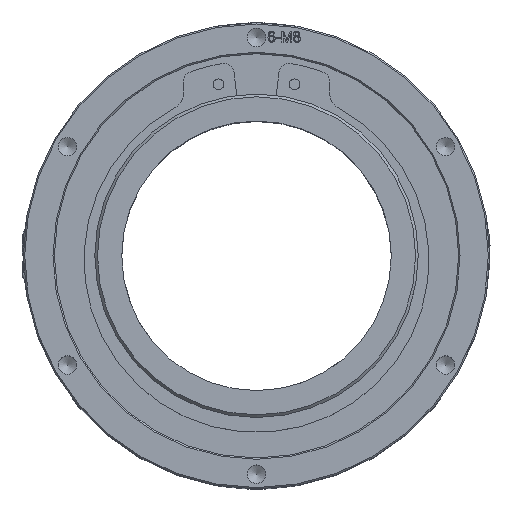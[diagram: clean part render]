
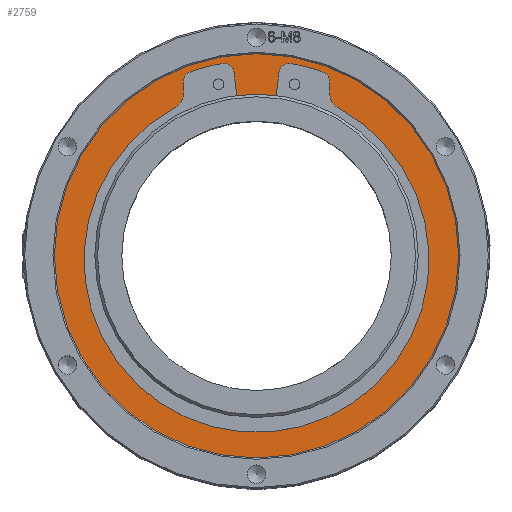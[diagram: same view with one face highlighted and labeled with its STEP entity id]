
A CAD part, top view. The second image highlights one B-rep face of the part: STEP entity #2759.
In plain terms, the highlighted planar face has unit normal (0, 0, 1).
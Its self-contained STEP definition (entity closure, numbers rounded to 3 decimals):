
#281=FACE_BOUND('',#8414,.T.);
#282=FACE_BOUND('',#8415,.T.);
#634=CIRCLE('',#30385,2.);
#635=CIRCLE('',#30386,58.);
#636=CIRCLE('',#30387,2.);
#637=CIRCLE('',#30388,4.);
#638=CIRCLE('',#30389,72.5);
#639=CIRCLE('',#30390,4.);
#640=CIRCLE('',#30391,6.);
#641=CIRCLE('',#30392,64.);
#642=CIRCLE('',#30393,6.);
#643=CIRCLE('',#30394,4.);
#644=CIRCLE('',#30395,72.5);
#645=CIRCLE('',#30396,4.);
#646=CIRCLE('',#30397,75.);
#1174=PLANE('',#30398);
#1713=LINE('',#53576,#5411);
#1714=LINE('',#53585,#5412);
#1715=LINE('',#53593,#5413);
#1716=LINE('',#53601,#5414);
#2759=ADVANCED_FACE('',(#281,#282),#1174,.T.);
#5411=VECTOR('',#32768,1.);
#5412=VECTOR('',#32775,1.);
#5413=VECTOR('',#32782,1.);
#5414=VECTOR('',#32789,1.);
#8414=EDGE_LOOP('',(#13285,#13286,#13287,#13288,#13289,#13290,#13291,#13292,
#13293,#13294,#13295,#13296,#13297,#13298,#13299,#13300));
#8415=EDGE_LOOP('',(#13301));
#13285=ORIENTED_EDGE('',*,*,#23914,.F.);
#13286=ORIENTED_EDGE('',*,*,#23915,.F.);
#13287=ORIENTED_EDGE('',*,*,#23916,.F.);
#13288=ORIENTED_EDGE('',*,*,#23917,.F.);
#13289=ORIENTED_EDGE('',*,*,#23918,.F.);
#13290=ORIENTED_EDGE('',*,*,#23919,.F.);
#13291=ORIENTED_EDGE('',*,*,#23920,.F.);
#13292=ORIENTED_EDGE('',*,*,#23921,.F.);
#13293=ORIENTED_EDGE('',*,*,#23922,.F.);
#13294=ORIENTED_EDGE('',*,*,#23923,.F.);
#13295=ORIENTED_EDGE('',*,*,#23924,.F.);
#13296=ORIENTED_EDGE('',*,*,#23925,.F.);
#13297=ORIENTED_EDGE('',*,*,#23926,.F.);
#13298=ORIENTED_EDGE('',*,*,#23927,.F.);
#13299=ORIENTED_EDGE('',*,*,#23928,.F.);
#13300=ORIENTED_EDGE('',*,*,#23929,.F.);
#13301=ORIENTED_EDGE('',*,*,#23930,.F.);
#20050=VERTEX_POINT('',#53577);
#20051=VERTEX_POINT('',#53578);
#20052=VERTEX_POINT('',#53580);
#20053=VERTEX_POINT('',#53582);
#20054=VERTEX_POINT('',#53584);
#20055=VERTEX_POINT('',#53586);
#20056=VERTEX_POINT('',#53588);
#20057=VERTEX_POINT('',#53590);
#20058=VERTEX_POINT('',#53592);
#20059=VERTEX_POINT('',#53594);
#20060=VERTEX_POINT('',#53596);
#20061=VERTEX_POINT('',#53598);
#20062=VERTEX_POINT('',#53600);
#20063=VERTEX_POINT('',#53602);
#20064=VERTEX_POINT('',#53604);
#20065=VERTEX_POINT('',#53606);
#20066=VERTEX_POINT('',#53609);
#23914=EDGE_CURVE('',#20050,#20051,#1713,.T.);
#23915=EDGE_CURVE('',#20052,#20050,#634,.T.);
#23916=EDGE_CURVE('',#20053,#20052,#635,.T.);
#23917=EDGE_CURVE('',#20054,#20053,#636,.T.);
#23918=EDGE_CURVE('',#20055,#20054,#1714,.T.);
#23919=EDGE_CURVE('',#20056,#20055,#637,.T.);
#23920=EDGE_CURVE('',#20057,#20056,#638,.T.);
#23921=EDGE_CURVE('',#20058,#20057,#639,.T.);
#23922=EDGE_CURVE('',#20059,#20058,#1715,.T.);
#23923=EDGE_CURVE('',#20060,#20059,#640,.T.);
#23924=EDGE_CURVE('',#20061,#20060,#641,.T.);
#23925=EDGE_CURVE('',#20062,#20061,#642,.T.);
#23926=EDGE_CURVE('',#20063,#20062,#1716,.T.);
#23927=EDGE_CURVE('',#20064,#20063,#643,.T.);
#23928=EDGE_CURVE('',#20065,#20064,#644,.T.);
#23929=EDGE_CURVE('',#20051,#20065,#645,.T.);
#23930=EDGE_CURVE('',#20066,#20066,#646,.T.);
#30385=AXIS2_PLACEMENT_3D('',#53579,#32769,#32770);
#30386=AXIS2_PLACEMENT_3D('',#53581,#32771,#32772);
#30387=AXIS2_PLACEMENT_3D('',#53583,#32773,#32774);
#30388=AXIS2_PLACEMENT_3D('',#53587,#32776,#32777);
#30389=AXIS2_PLACEMENT_3D('',#53589,#32778,#32779);
#30390=AXIS2_PLACEMENT_3D('',#53591,#32780,#32781);
#30391=AXIS2_PLACEMENT_3D('',#53595,#32783,#32784);
#30392=AXIS2_PLACEMENT_3D('',#53597,#32785,#32786);
#30393=AXIS2_PLACEMENT_3D('',#53599,#32787,#32788);
#30394=AXIS2_PLACEMENT_3D('',#53603,#32790,#32791);
#30395=AXIS2_PLACEMENT_3D('',#53605,#32792,#32793);
#30396=AXIS2_PLACEMENT_3D('',#53607,#32794,#32795);
#30397=AXIS2_PLACEMENT_3D('',#53608,#32796,#32797);
#30398=AXIS2_PLACEMENT_3D('',#53610,#32798,#32799);
#32768=DIRECTION('',(-0.122,0.993,0.));
#32769=DIRECTION('',(0.,0.,1.));
#32770=DIRECTION('',(1.,0.,0.));
#32771=DIRECTION('',(0.,0.,1.));
#32772=DIRECTION('',(1.,0.,0.));
#32773=DIRECTION('',(0.,0.,1.));
#32774=DIRECTION('',(1.,0.,0.));
#32775=DIRECTION('',(-0.122,-0.993,0.));
#32776=DIRECTION('',(0.,0.,1.));
#32777=DIRECTION('',(1.,0.,0.));
#32778=DIRECTION('',(0.,0.,1.));
#32779=DIRECTION('',(1.,0.,0.));
#32780=DIRECTION('',(0.,0.,1.));
#32781=DIRECTION('',(1.,0.,0.));
#32782=DIRECTION('',(0.035,0.999,0.));
#32783=DIRECTION('',(0.,0.,-1.));
#32784=DIRECTION('',(1.,0.,0.));
#32785=DIRECTION('',(0.,0.,1.));
#32786=DIRECTION('',(1.,0.,0.));
#32787=DIRECTION('',(0.,0.,-1.));
#32788=DIRECTION('',(1.,0.,0.));
#32789=DIRECTION('',(0.035,-0.999,0.));
#32790=DIRECTION('',(0.,0.,1.));
#32791=DIRECTION('',(1.,0.,0.));
#32792=DIRECTION('',(0.,0.,1.));
#32793=DIRECTION('',(1.,0.,0.));
#32794=DIRECTION('',(0.,0.,1.));
#32795=DIRECTION('',(1.,0.,0.));
#32796=DIRECTION('',(0.,0.,-1.));
#32797=DIRECTION('',(1.,0.,0.));
#32798=DIRECTION('',(0.,0.,1.));
#32799=DIRECTION('',(1.,0.,0.));
#53576=CARTESIAN_POINT('',(-7.308,59.52,97.));
#53577=CARTESIAN_POINT('',(-7.308,59.52,97.));
#53578=CARTESIAN_POINT('',(-8.334,67.873,97.));
#53579=CARTESIAN_POINT('',(-9.293,59.276,97.));
#53580=CARTESIAN_POINT('',(-8.983,57.3,97.));
#53581=CARTESIAN_POINT('',(0.,0.,97.));
#53582=CARTESIAN_POINT('',(8.983,57.3,97.));
#53583=CARTESIAN_POINT('',(9.293,59.276,97.));
#53584=CARTESIAN_POINT('',(7.308,59.52,97.));
#53585=CARTESIAN_POINT('',(8.334,67.873,97.));
#53586=CARTESIAN_POINT('',(8.334,67.873,97.));
#53587=CARTESIAN_POINT('',(12.304,67.386,97.));
#53588=CARTESIAN_POINT('',(13.022,71.321,97.));
#53589=CARTESIAN_POINT('',(0.,0.,97.));
#53590=CARTESIAN_POINT('',(24.621,68.191,97.));
#53591=CARTESIAN_POINT('',(23.263,64.429,97.));
#53592=CARTESIAN_POINT('',(27.26,64.289,97.));
#53593=CARTESIAN_POINT('',(27.124,60.378,97.));
#53594=CARTESIAN_POINT('',(27.124,60.378,97.));
#53595=CARTESIAN_POINT('',(33.12,60.169,97.));
#53596=CARTESIAN_POINT('',(30.281,54.883,97.));
#53597=CARTESIAN_POINT('',(0.,-1.5,97.));
#53598=CARTESIAN_POINT('',(-30.281,54.883,97.));
#53599=CARTESIAN_POINT('',(-33.12,60.169,97.));
#53600=CARTESIAN_POINT('',(-27.124,60.378,97.));
#53601=CARTESIAN_POINT('',(-27.26,64.289,97.));
#53602=CARTESIAN_POINT('',(-27.26,64.289,97.));
#53603=CARTESIAN_POINT('',(-23.263,64.429,97.));
#53604=CARTESIAN_POINT('',(-24.621,68.191,97.));
#53605=CARTESIAN_POINT('',(0.,0.,97.));
#53606=CARTESIAN_POINT('',(-13.022,71.321,97.));
#53607=CARTESIAN_POINT('',(-12.304,67.386,97.));
#53608=CARTESIAN_POINT('',(0.,0.,97.));
#53609=CARTESIAN_POINT('',(75.,0.,97.));
#53610=CARTESIAN_POINT('',(0.,0.,97.));
